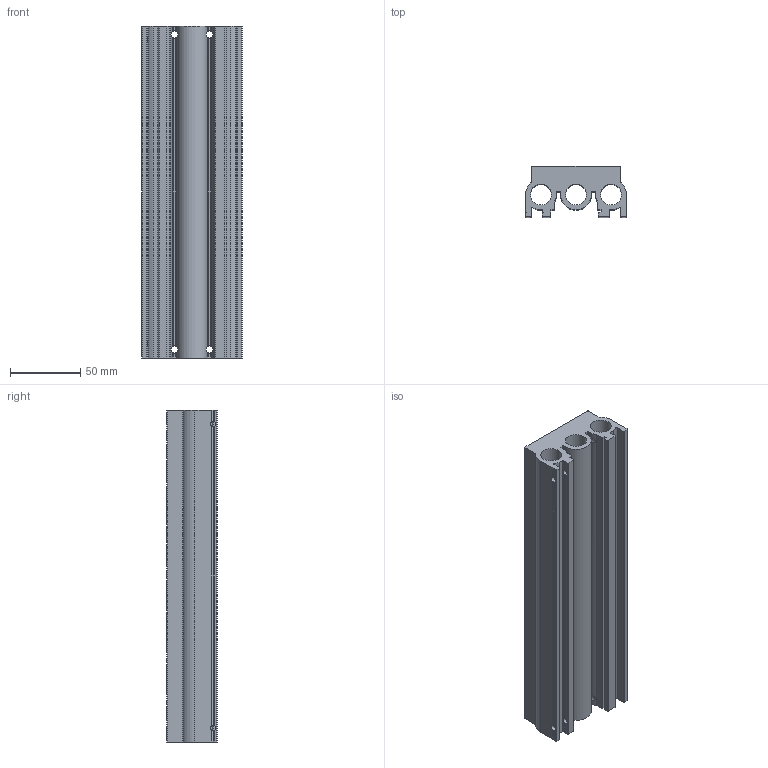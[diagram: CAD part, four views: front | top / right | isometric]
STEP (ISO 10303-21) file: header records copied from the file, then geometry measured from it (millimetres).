
FILE_DESCRIPTION(/* description */ ('COLLETTORE G1/4" 7 POSTI (TECNO-ECO)'),/* implementation_level */ '2;1');
FILE_NAME(/* name */ 'I:\Area Tecnica\Disegni\VARIE-3D\Componenti\T400\T424\T424_##\T424_07.stp',/* time_stamp */ '2015-09-23T13:41:46+02:00',/* author */ ('maniean1'),/* organization */ (''),/* preprocessor_version */ 'ST-DEVELOPER v15.2',/* originating_system */ 'Autodesk Inventor 2014',/* authorisation */ '');
FILE_SCHEMA (('AUTOMOTIVE_DESIGN { 1 0 10303 214 3 1 1 }'));
Length unit declared in the file: millimetre
Products named in the file (1): T424_07
Bounding box: 72 x 36 x 237 mm (x, y, z)
Volume: 337418.6 mm3; surface area: 113869.7 mm2
Topology: 1 solids, 1 shells, 243 faces, 590 edges, 385 vertices
Faces by surface type: cylinder 117, plane 105, cone 21
Full cylindrical faces by diameter (mm): 4 x25, 5.25 x4, 8 x21, 9 x4, 14.9 x3, 16.8 x21
Entity records: 7750 total; most frequent: CARTESIAN_POINT 2195, DIRECTION 1168, ORIENTED_EDGE 966, AXIS2_PLACEMENT_3D 488, EDGE_CURVE 483, EDGE_LOOP 442, VERTEX_POINT 377, ADVANCED_FACE 243
